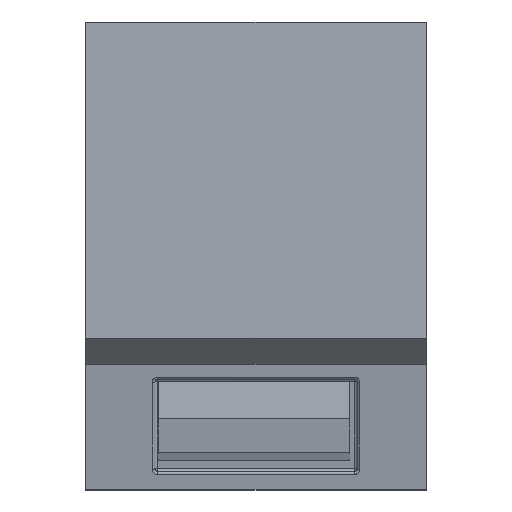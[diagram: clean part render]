
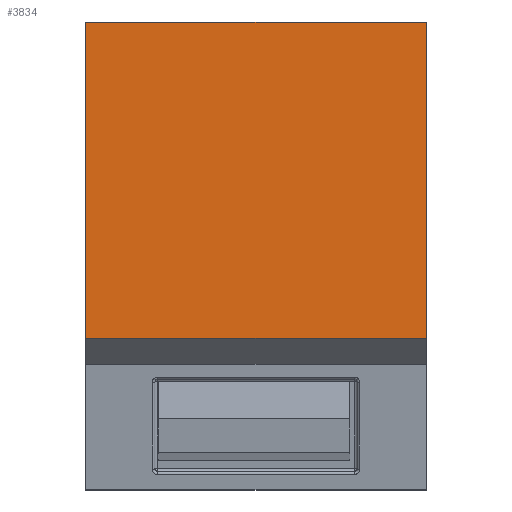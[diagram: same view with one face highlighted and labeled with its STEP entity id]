
A CAD part, front view. The second image highlights one B-rep face of the part: STEP entity #3834.
In plain terms, the highlighted planar face has unit normal (0, -1, 0).
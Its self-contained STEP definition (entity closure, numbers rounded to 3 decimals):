
#38 = LINE ( 'NONE', #2312, #10152 ) ;
#313 = AXIS2_PLACEMENT_3D ( 'NONE', #12952, #8112, #2574 ) ;
#399 = DIRECTION ( 'NONE',  ( 0., 0., 1. ) ) ;
#528 = DIRECTION ( 'NONE',  ( 0., 0., 1. ) ) ;
#612 = CARTESIAN_POINT ( 'NONE',  ( 32., 0., 26.5 ) ) ;
#1281 = CARTESIAN_POINT ( 'NONE',  ( -32., 0., -33. ) ) ;
#1778 = VERTEX_POINT ( 'NONE', #14463 ) ;
#1885 = EDGE_LOOP ( 'NONE', ( #12355, #1891, #2703, #13837 ) ) ;
#1891 = ORIENTED_EDGE ( 'NONE', *, *, #7244, .F. ) ;
#2312 = CARTESIAN_POINT ( 'NONE',  ( 32., 0., -33. ) ) ;
#2574 = DIRECTION ( 'NONE',  ( 0., 0., -1. ) ) ;
#2662 = CARTESIAN_POINT ( 'NONE',  ( 32., 0., 0. ) ) ;
#2703 = ORIENTED_EDGE ( 'NONE', *, *, #8029, .T. ) ;
#2764 = EDGE_CURVE ( 'NONE', #12874, #4232, #12044, .T. ) ;
#2844 = EDGE_CURVE ( 'NONE', #1778, #4232, #7292, .T. ) ;
#3834 = ADVANCED_FACE ( 'NONE', ( #9468 ), #8340, .T. ) ;
#3911 = VERTEX_POINT ( 'NONE', #14239 ) ;
#4232 = VERTEX_POINT ( 'NONE', #14437 ) ;
#5652 = VECTOR ( 'NONE', #528, 1000. ) ;
#7141 = LINE ( 'NONE', #2662, #5652 ) ;
#7244 = EDGE_CURVE ( 'NONE', #3911, #12874, #38, .T. ) ;
#7292 = LINE ( 'NONE', #612, #10456 ) ;
#8029 = EDGE_CURVE ( 'NONE', #3911, #1778, #7141, .T. ) ;
#8112 = DIRECTION ( 'NONE',  ( 0., -1., 0. ) ) ;
#8340 = PLANE ( 'NONE',  #313 ) ;
#8500 = CARTESIAN_POINT ( 'NONE',  ( -32., 0., 0. ) ) ;
#9468 = FACE_OUTER_BOUND ( 'NONE', #1885, .T. ) ;
#9586 = DIRECTION ( 'NONE',  ( -1., 0., 0. ) ) ;
#9969 = VECTOR ( 'NONE', #399, 1000. ) ;
#10152 = VECTOR ( 'NONE', #9586, 1000. ) ;
#10456 = VECTOR ( 'NONE', #12340, 1000. ) ;
#12044 = LINE ( 'NONE', #8500, #9969 ) ;
#12340 = DIRECTION ( 'NONE',  ( -1., 0., 0. ) ) ;
#12355 = ORIENTED_EDGE ( 'NONE', *, *, #2764, .F. ) ;
#12874 = VERTEX_POINT ( 'NONE', #1281 ) ;
#12952 = CARTESIAN_POINT ( 'NONE',  ( 32., 0., 0. ) ) ;
#13837 = ORIENTED_EDGE ( 'NONE', *, *, #2844, .T. ) ;
#14239 = CARTESIAN_POINT ( 'NONE',  ( 32., 0., -33. ) ) ;
#14437 = CARTESIAN_POINT ( 'NONE',  ( -32., 0., 26.5 ) ) ;
#14463 = CARTESIAN_POINT ( 'NONE',  ( 32., 0., 26.5 ) ) ;
